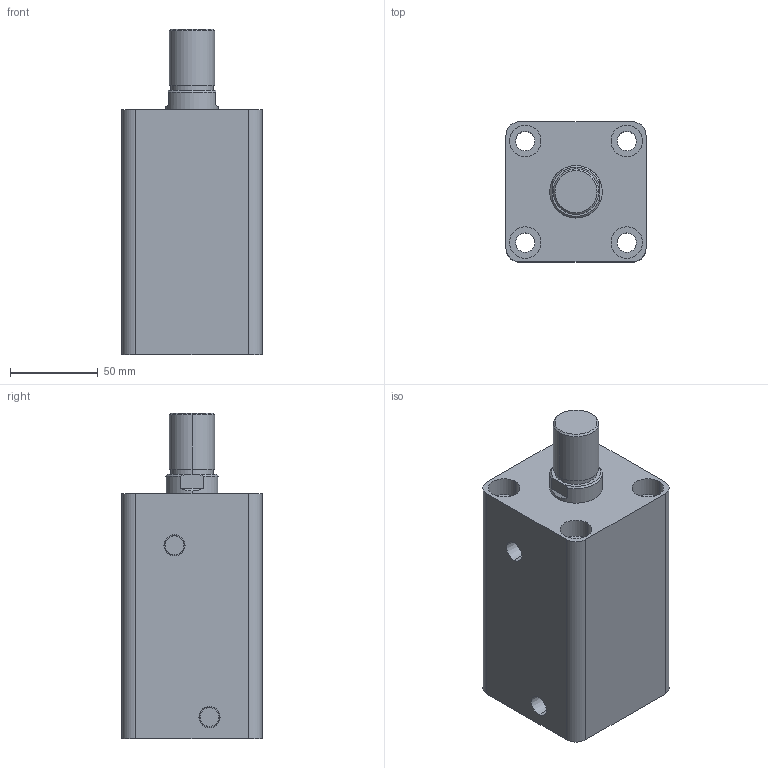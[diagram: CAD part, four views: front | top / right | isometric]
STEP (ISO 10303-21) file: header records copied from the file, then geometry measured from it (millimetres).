
FILE_DESCRIPTION (( 'STEP AP203' ), '1' );
FILE_NAME ('HTB-SD50-80W.STEP', '2019-10-07T07:14:25', ( '微软用户' ), ( '微软中国' ), 'SwSTEP 2.0', 'SolidWorks 2012', '' );
FILE_SCHEMA (( 'CONFIG_CONTROL_DESIGN' ));
Length unit declared in the file: millimetre
Products named in the file (3): HTB-SD50-80W; HTB-SD50-80W活塞杆; HTB-SD50-80掛极
Assembly tree (2 placements, depth 2):
  HTB-SD50-80W
    HTB-SD50-80掛极
    HTB-SD50-80W活塞杆
Bounding box: 80 x 80 x 186 mm (x, y, z)
Volume: 743933.5 mm3; surface area: 119179.1 mm2
Topology: 2 solids, 2 shells, 87 faces, 190 edges, 124 vertices
Faces by surface type: cylinder 44, plane 29, cone 8, torus 6
Entity records: 2761 total; most frequent: DIRECTION 478, CARTESIAN_POINT 434, ORIENTED_EDGE 380, AXIS2_PLACEMENT_3D 204, EDGE_CURVE 190, VERTEX_POINT 124, CIRCLE 112, EDGE_LOOP 112
